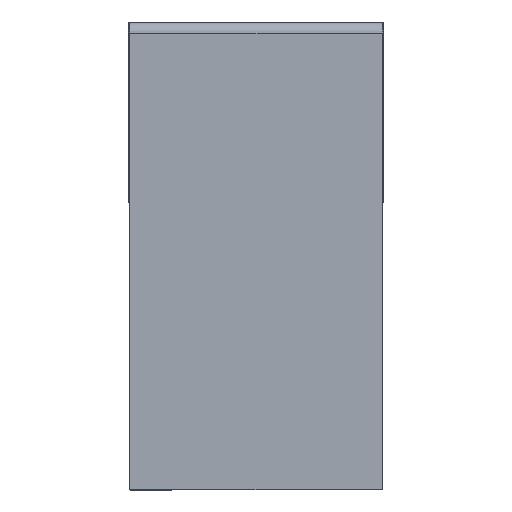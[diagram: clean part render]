
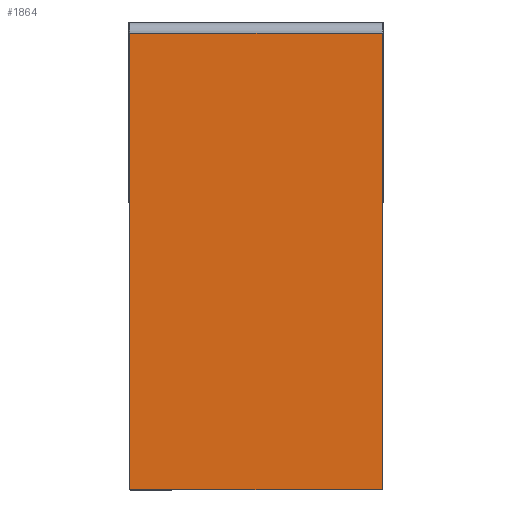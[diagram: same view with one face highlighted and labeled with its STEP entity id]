
A CAD part, top view. The second image highlights one B-rep face of the part: STEP entity #1864.
In plain terms, the highlighted planar face has unit normal (0, 0, 1).
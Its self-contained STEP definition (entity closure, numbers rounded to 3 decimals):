
#1663=CARTESIAN_POINT('',(6.,1066.97,15.));
#1664=VERTEX_POINT('',#1663);
#1694=CARTESIAN_POINT('',(6.,-4.,15.));
#1695=VERTEX_POINT('',#1694);
#1704=CARTESIAN_POINT('',(6.,1066.97,15.));
#1705=DIRECTION('',(0.0,-1.0,0.0));
#1706=VECTOR('',#1705,1070.97);
#1707=LINE('',#1704,#1706);
#1708=EDGE_CURVE('',#1664,#1695,#1707,.T.);
#1718=CARTESIAN_POINT('',(4.,-6.,15.));
#1719=VERTEX_POINT('',#1718);
#1728=CARTESIAN_POINT('',(4.,-4.,15.));
#1729=DIRECTION('',(0.,0.,-1.0));
#1730=DIRECTION('',(0.707,-0.707,0.));
#1731=AXIS2_PLACEMENT_3D('',#1728,#1729,#1730);
#1732=CIRCLE('',#1731,2.);
#1733=EDGE_CURVE('',#1695,#1719,#1732,.T.);
#1743=CARTESIAN_POINT('',(-585.,-6.,15.));
#1744=VERTEX_POINT('',#1743);
#1753=CARTESIAN_POINT('',(4.,-6.,15.));
#1754=DIRECTION('',(-1.0,0.0,0.0));
#1755=VECTOR('',#1754,589.);
#1756=LINE('',#1753,#1755);
#1757=EDGE_CURVE('',#1719,#1744,#1756,.T.);
#1767=CARTESIAN_POINT('',(-587.,-4.,15.));
#1768=VERTEX_POINT('',#1767);
#1777=CARTESIAN_POINT('',(-585.,-4.,15.));
#1778=DIRECTION('',(0.,0.,-1.0));
#1779=DIRECTION('',(-0.707,-0.707,0.));
#1780=AXIS2_PLACEMENT_3D('',#1777,#1778,#1779);
#1781=CIRCLE('',#1780,2.);
#1782=EDGE_CURVE('',#1744,#1768,#1781,.T.);
#1792=CARTESIAN_POINT('',(-587.,1066.97,15.));
#1793=VERTEX_POINT('',#1792);
#1802=CARTESIAN_POINT('',(-587.,-4.0,15.));
#1803=DIRECTION('',(0.0,1.0,0.0));
#1804=VECTOR('',#1803,1070.97);
#1805=LINE('',#1802,#1804);
#1806=EDGE_CURVE('',#1768,#1793,#1805,.T.);
#1846=CARTESIAN_POINT('',(-290.5,686.09,15.));
#1847=DIRECTION('',(0.0,0.0,1.0));
#1848=DIRECTION('',(0.0,1.0,0.0));
#1849=AXIS2_PLACEMENT_3D('',#1846,#1847,#1848);
#1850=PLANE('',#1849);
#1851=ORIENTED_EDGE('',*,*,#1806,.F.);
#1852=ORIENTED_EDGE('',*,*,#1782,.F.);
#1853=ORIENTED_EDGE('',*,*,#1757,.F.);
#1854=ORIENTED_EDGE('',*,*,#1733,.F.);
#1855=ORIENTED_EDGE('',*,*,#1708,.F.);
#1856=CARTESIAN_POINT('',(6.,1066.97,15.));
#1857=DIRECTION('',(-1.0,0.0,0.0));
#1858=VECTOR('',#1857,593.0);
#1859=LINE('',#1856,#1858);
#1860=EDGE_CURVE('',#1664,#1793,#1859,.T.);
#1861=ORIENTED_EDGE('',*,*,#1860,.T.);
#1862=EDGE_LOOP('',(#1851,#1852,#1853,#1854,#1855,#1861));
#1863=FACE_OUTER_BOUND('',#1862,.T.);
#1864=ADVANCED_FACE('',(#1863),#1850,.T.);
